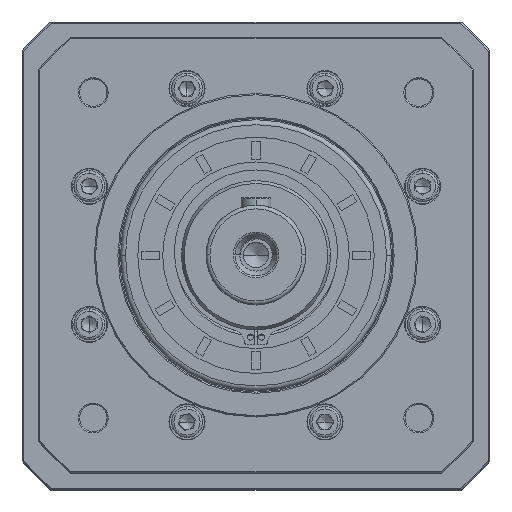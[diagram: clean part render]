
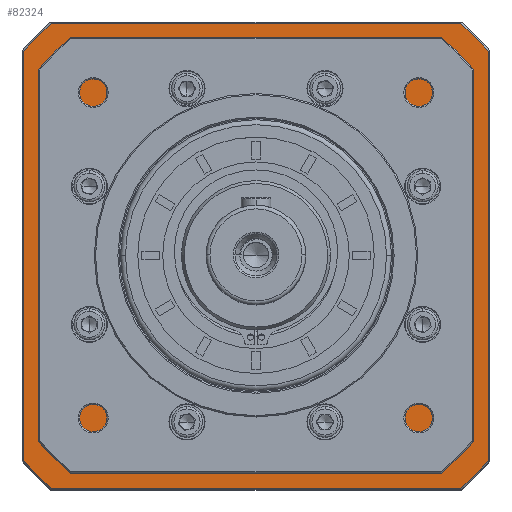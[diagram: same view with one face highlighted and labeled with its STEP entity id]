
A CAD part, top view. The second image highlights one B-rep face of the part: STEP entity #82324.
In plain terms, the highlighted planar face has unit normal (0, 0, 1).
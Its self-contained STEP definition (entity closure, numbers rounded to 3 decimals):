
#6550 = CARTESIAN_POINT ( 'NONE',  ( 87.387, 106.757, 32.025 ) ) ;
#9588 = DIRECTION ( 'NONE',  ( 0., 0., -1. ) ) ;
#9652 = CARTESIAN_POINT ( 'NONE',  ( 167.887, 106.757, 32.025 ) ) ;
#11441 = AXIS2_PLACEMENT_3D ( 'NONE', #79233, #9588, #63041 ) ;
#11502 = LINE ( 'NONE', #17728, #72036 ) ;
#11515 = LINE ( 'NONE', #15290, #81646 ) ;
#12268 = DIRECTION ( 'NONE',  ( -1., 0., 0. ) ) ;
#14034 = VERTEX_POINT ( 'NONE', #6550 ) ;
#14096 = CARTESIAN_POINT ( 'NONE',  ( 85.68, 13.257, 32.025 ) ) ;
#15290 = CARTESIAN_POINT ( 'NONE',  ( 167.887, 13.257, 32.025 ) ) ;
#17728 = CARTESIAN_POINT ( 'NONE',  ( 74.387, 106.757, 32.025 ) ) ;
#18737 = CIRCLE ( 'NONE', #88080, 80.5 ) ;
#18909 = AXIS2_PLACEMENT_3D ( 'NONE', #9652, #64108, #87055 ) ;
#22082 = EDGE_CURVE ( 'NONE', #76065, #14034, #50630, .T. ) ;
#24930 = ORIENTED_EDGE ( 'NONE', *, *, #25127, .F. ) ;
#25127 = EDGE_CURVE ( 'NONE', #38138, #65465, #68021, .T. ) ;
#25996 = AXIS2_PLACEMENT_3D ( 'NONE', #34651, #49224, #88382 ) ;
#28236 = VERTEX_POINT ( 'NONE', #53326 ) ;
#31669 = ORIENTED_EDGE ( 'NONE', *, *, #54790, .F. ) ;
#33396 = VERTEX_POINT ( 'NONE', #69771 ) ;
#33624 = EDGE_CURVE ( 'NONE', #66677, #38138, #93625, .T. ) ;
#34076 = FACE_BOUND ( 'NONE', #85046, .T. ) ;
#34349 = CARTESIAN_POINT ( 'NONE',  ( 261.387, 188.964, 32.025 ) ) ;
#34651 = CARTESIAN_POINT ( 'NONE',  ( 167.887, 106.757, 32.025 ) ) ;
#35458 = ORIENTED_EDGE ( 'NONE', *, *, #68804, .F. ) ;
#38138 = VERTEX_POINT ( 'NONE', #69637 ) ;
#40356 = DIRECTION ( 'NONE',  ( 0., -1., 0. ) ) ;
#41179 = EDGE_CURVE ( 'NONE', #70315, #28236, #80174, .T. ) ;
#42431 = CARTESIAN_POINT ( 'NONE',  ( 167.887, 106.757, 32.025 ) ) ;
#42719 = CARTESIAN_POINT ( 'NONE',  ( 250.094, 13.257, 32.025 ) ) ;
#46518 = PLANE ( 'NONE',  #47536 ) ;
#46843 = DIRECTION ( 'NONE',  ( 0., 0., -1. ) ) ;
#47536 = AXIS2_PLACEMENT_3D ( 'NONE', #92080, #46843, #85040 ) ;
#48185 = CARTESIAN_POINT ( 'NONE',  ( 85.68, 200.257, 32.025 ) ) ;
#49224 = DIRECTION ( 'NONE',  ( 0., 0., -1. ) ) ;
#50630 = CIRCLE ( 'NONE', #18909, 80.5 ) ;
#53326 = CARTESIAN_POINT ( 'NONE',  ( 250.094, 200.257, 32.025 ) ) ;
#54038 = EDGE_CURVE ( 'NONE', #66781, #33396, #11502, .T. ) ;
#54790 = EDGE_CURVE ( 'NONE', #14034, #76065, #18737, .T. ) ;
#55026 = ORIENTED_EDGE ( 'NONE', *, *, #33624, .F. ) ;
#55055 = VECTOR ( 'NONE', #40356, 1000. ) ;
#55205 = DIRECTION ( 'NONE',  ( 0., 1., 0. ) ) ;
#55699 = CIRCLE ( 'NONE', #25996, 124.5 ) ;
#57163 = FACE_OUTER_BOUND ( 'NONE', #62974, .T. ) ;
#57480 = EDGE_CURVE ( 'NONE', #28236, #66677, #55699, .T. ) ;
#58615 = CARTESIAN_POINT ( 'NONE',  ( 167.887, 106.757, 32.025 ) ) ;
#60888 = EDGE_CURVE ( 'NONE', #33396, #70315, #72889, .T. ) ;
#62122 = ORIENTED_EDGE ( 'NONE', *, *, #60888, .F. ) ;
#62974 = EDGE_LOOP ( 'NONE', ( #99069, #24930, #55026, #89951, #83604, #62122, #69087, #35458 ) ) ;
#63041 = DIRECTION ( 'NONE',  ( -1., 0., 0. ) ) ;
#64108 = DIRECTION ( 'NONE',  ( 0., 0., 1. ) ) ;
#65353 = DIRECTION ( 'NONE',  ( 0., 0., -1. ) ) ;
#65465 = VERTEX_POINT ( 'NONE', #42719 ) ;
#65741 = VECTOR ( 'NONE', #73659, 1000. ) ;
#66632 = AXIS2_PLACEMENT_3D ( 'NONE', #58615, #65353, #12268 ) ;
#66677 = VERTEX_POINT ( 'NONE', #34349 ) ;
#66781 = VERTEX_POINT ( 'NONE', #72572 ) ;
#68021 = CIRCLE ( 'NONE', #11441, 124.5 ) ;
#68243 = ORIENTED_EDGE ( 'NONE', *, *, #22082, .F. ) ;
#68703 = DIRECTION ( 'NONE',  ( -1., 0., 0. ) ) ;
#68804 = EDGE_CURVE ( 'NONE', #99199, #66781, #86133, .T. ) ;
#69087 = ORIENTED_EDGE ( 'NONE', *, *, #54038, .F. ) ;
#69637 = CARTESIAN_POINT ( 'NONE',  ( 261.387, 24.55, 32.025 ) ) ;
#69771 = CARTESIAN_POINT ( 'NONE',  ( 74.387, 188.964, 32.025 ) ) ;
#70315 = VERTEX_POINT ( 'NONE', #48185 ) ;
#71301 = CARTESIAN_POINT ( 'NONE',  ( 167.887, 200.257, 32.025 ) ) ;
#72036 = VECTOR ( 'NONE', #55205, 1000. ) ;
#72572 = CARTESIAN_POINT ( 'NONE',  ( 74.387, 24.55, 32.025 ) ) ;
#72889 = CIRCLE ( 'NONE', #66632, 124.5 ) ;
#73659 = DIRECTION ( 'NONE',  ( 1., 0., 0. ) ) ;
#75396 = DIRECTION ( 'NONE',  ( -1., 0., 0. ) ) ;
#76065 = VERTEX_POINT ( 'NONE', #76957 ) ;
#76067 = CARTESIAN_POINT ( 'NONE',  ( 167.887, 106.757, 32.025 ) ) ;
#76957 = CARTESIAN_POINT ( 'NONE',  ( 248.387, 106.757, 32.025 ) ) ;
#78519 = CARTESIAN_POINT ( 'NONE',  ( 261.387, 106.757, 32.025 ) ) ;
#79233 = CARTESIAN_POINT ( 'NONE',  ( 167.887, 106.757, 32.025 ) ) ;
#80174 = LINE ( 'NONE', #71301, #65741 ) ;
#81646 = VECTOR ( 'NONE', #68703, 1000. ) ;
#82324 = ADVANCED_FACE ( 'NONE', ( #57163, #34076 ), #46518, .F. ) ;
#83604 = ORIENTED_EDGE ( 'NONE', *, *, #41179, .F. ) ;
#83872 = DIRECTION ( 'NONE',  ( 0., 0., -1. ) ) ;
#85040 = DIRECTION ( 'NONE',  ( -1., 0., 0. ) ) ;
#85046 = EDGE_LOOP ( 'NONE', ( #68243, #31669 ) ) ;
#86133 = CIRCLE ( 'NONE', #96387, 124.5 ) ;
#87055 = DIRECTION ( 'NONE',  ( 1., 0., 0. ) ) ;
#88080 = AXIS2_PLACEMENT_3D ( 'NONE', #42431, #97070, #96079 ) ;
#88382 = DIRECTION ( 'NONE',  ( -1., 0., 0. ) ) ;
#89951 = ORIENTED_EDGE ( 'NONE', *, *, #57480, .F. ) ;
#91928 = EDGE_CURVE ( 'NONE', #65465, #99199, #11515, .T. ) ;
#92080 = CARTESIAN_POINT ( 'NONE',  ( 167.887, 106.757, 32.025 ) ) ;
#93625 = LINE ( 'NONE', #78519, #55055 ) ;
#96079 = DIRECTION ( 'NONE',  ( 1., 0., 0. ) ) ;
#96387 = AXIS2_PLACEMENT_3D ( 'NONE', #76067, #83872, #75396 ) ;
#97070 = DIRECTION ( 'NONE',  ( 0., 0., 1. ) ) ;
#99069 = ORIENTED_EDGE ( 'NONE', *, *, #91928, .F. ) ;
#99199 = VERTEX_POINT ( 'NONE', #14096 ) ;
